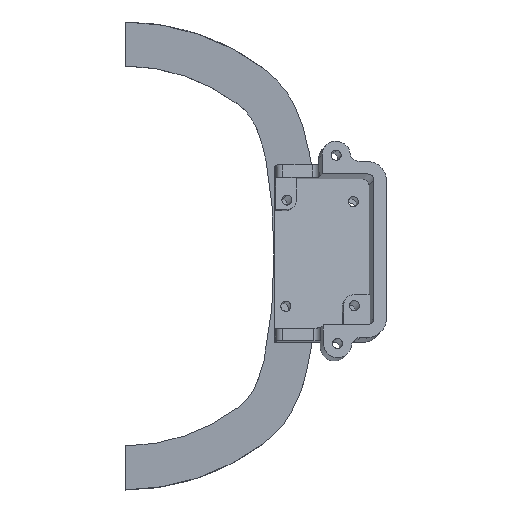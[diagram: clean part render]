
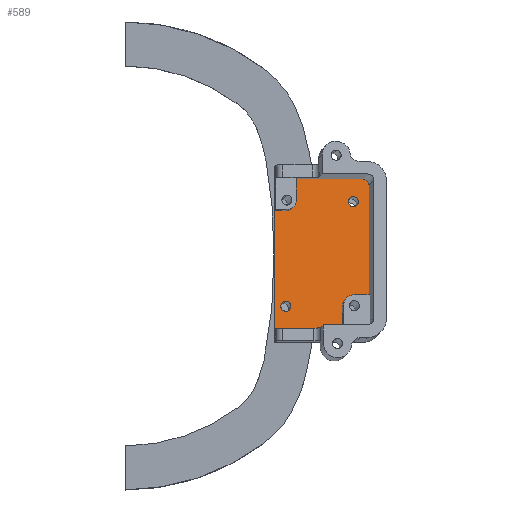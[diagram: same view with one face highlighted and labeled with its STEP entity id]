
A CAD part, top view. The second image highlights one B-rep face of the part: STEP entity #589.
In plain terms, the highlighted planar face has unit normal (0.087, 0.087, 0.992).
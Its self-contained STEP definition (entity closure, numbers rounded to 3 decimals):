
#18 = PLANE ( 'NONE',  #1616 ) ;
#20 = DIRECTION ( 'NONE',  ( 0., -0.996, 0.087 ) ) ;
#110 = ORIENTED_EDGE ( 'NONE', *, *, #1075, .T. ) ;
#144 = VERTEX_POINT ( 'NONE', #3727 ) ;
#319 = EDGE_CURVE ( 'NONE', #476, #3424, #2714, .T. ) ;
#331 = VERTEX_POINT ( 'NONE', #394 ) ;
#394 = CARTESIAN_POINT ( 'NONE',  ( 24., 6.988, 6.101 ) ) ;
#401 = AXIS2_PLACEMENT_3D ( 'NONE', #2703, #4307, #612 ) ;
#423 = LINE ( 'NONE', #4798, #1069 ) ;
#435 = CARTESIAN_POINT ( 'NONE',  ( 25.758, -9.064, 7.351 ) ) ;
#450 = CARTESIAN_POINT ( 'NONE',  ( 25.758, 8.469, 5.817 ) ) ;
#454 = LINE ( 'NONE', #3302, #4780 ) ;
#476 = VERTEX_POINT ( 'NONE', #1449 ) ;
#504 = CARTESIAN_POINT ( 'NONE',  ( 34.704, 0.759, 5.709 ) ) ;
#508 = EDGE_LOOP ( 'NONE', ( #1538, #1007 ) ) ;
#558 = ORIENTED_EDGE ( 'NONE', *, *, #4343, .T. ) ;
#589 = ADVANCED_FACE ( 'NONE', ( #1188, #3158, #3103 ), #18, .T. ) ;
#612 = DIRECTION ( 'NONE',  ( 0.996, 0., -0.087 ) ) ;
#614 = ORIENTED_EDGE ( 'NONE', *, *, #2494, .F. ) ;
#619 = ORIENTED_EDGE ( 'NONE', *, *, #2643, .T. ) ;
#653 = LINE ( 'NONE', #3513, #4210 ) ;
#775 = VERTEX_POINT ( 'NONE', #3046 ) ;
#783 = DIRECTION ( 'NONE',  ( 0.087, 0.087, 0.992 ) ) ;
#900 = AXIS2_PLACEMENT_3D ( 'NONE', #3019, #4622, #995 ) ;
#935 = VERTEX_POINT ( 'NONE', #4697 ) ;
#995 = DIRECTION ( 'NONE',  ( 0., -0.996, 0.087 ) ) ;
#1007 = ORIENTED_EDGE ( 'NONE', *, *, #3442, .F. ) ;
#1069 = VECTOR ( 'NONE', #4006, 1000. ) ;
#1075 = EDGE_CURVE ( 'NONE', #1303, #1386, #454, .T. ) ;
#1150 = CARTESIAN_POINT ( 'NONE',  ( 38.004, 12.008, 4.436 ) ) ;
#1188 = FACE_BOUND ( 'NONE', #508, .T. ) ;
#1280 = EDGE_CURVE ( 'NONE', #775, #4424, #1463, .T. ) ;
#1303 = VERTEX_POINT ( 'NONE', #1150 ) ;
#1341 = EDGE_CURVE ( 'NONE', #331, #3782, #423, .T. ) ;
#1386 = VERTEX_POINT ( 'NONE', #4486 ) ;
#1430 = EDGE_CURVE ( 'NONE', #144, #3210, #3473, .T. ) ;
#1449 = CARTESIAN_POINT ( 'NONE',  ( 36.517, 9.184, 4.814 ) ) ;
#1463 = LINE ( 'NONE', #2271, #4945 ) ;
#1537 = CARTESIAN_POINT ( 'NONE',  ( 36.517, 8.387, 4.883 ) ) ;
#1538 = ORIENTED_EDGE ( 'NONE', *, *, #5102, .F. ) ;
#1541 = DIRECTION ( 'NONE',  ( 0., 0.996, -0.087 ) ) ;
#1557 = ORIENTED_EDGE ( 'NONE', *, *, #3042, .F. ) ;
#1575 = CIRCLE ( 'NONE', #900, 0.8 ) ;
#1600 = EDGE_LOOP ( 'NONE', ( #619, #5082, #110, #2838, #3684, #558, #2540, #3426, #1977, #614, #2391 ) ) ;
#1616 = AXIS2_PLACEMENT_3D ( 'NONE', #4015, #4730, #4705 ) ;
#1737 = DIRECTION ( 'NONE',  ( 0.008, -0.996, 0.086 ) ) ;
#1763 = DIRECTION ( 'NONE',  ( 0.996, 0., -0.087 ) ) ;
#1889 = CARTESIAN_POINT ( 'NONE',  ( 36.517, -8.349, 6.348 ) ) ;
#1977 = ORIENTED_EDGE ( 'NONE', *, *, #4554, .F. ) ;
#1996 = LINE ( 'NONE', #5176, #3432 ) ;
#2060 = DIRECTION ( 'NONE',  ( 0.087, 0.087, 0.992 ) ) ;
#2061 = CARTESIAN_POINT ( 'NONE',  ( 36.517, -6.606, 6.195 ) ) ;
#2116 = CARTESIAN_POINT ( 'NONE',  ( 23.985, -12.008, 7.764 ) ) ;
#2252 = AXIS2_PLACEMENT_3D ( 'NONE', #1889, #3452, #5130 ) ;
#2271 = CARTESIAN_POINT ( 'NONE',  ( 0.759, -6.334, 9.3 ) ) ;
#2279 = CARTESIAN_POINT ( 'NONE',  ( 24., -12.008, 7.763 ) ) ;
#2326 = DIRECTION ( 'NONE',  ( -0.996, 0.008, 0.086 ) ) ;
#2391 = ORIENTED_EDGE ( 'NONE', *, *, #1280, .F. ) ;
#2415 = DIRECTION ( 'NONE',  ( 0., -0.996, 0.087 ) ) ;
#2464 = AXIS2_PLACEMENT_3D ( 'NONE', #450, #2060, #4873 ) ;
#2494 = EDGE_CURVE ( 'NONE', #4424, #3615, #3014, .T. ) ;
#2540 = ORIENTED_EDGE ( 'NONE', *, *, #1341, .T. ) ;
#2643 = EDGE_CURVE ( 'NONE', #775, #5044, #1996, .T. ) ;
#2680 = CIRCLE ( 'NONE', #401, 1. ) ;
#2703 = CARTESIAN_POINT ( 'NONE',  ( 38.011, 11.011, 4.523 ) ) ;
#2714 = CIRCLE ( 'NONE', #2972, 0.8 ) ;
#2761 = DIRECTION ( 'NONE',  ( 0.087, 0.087, 0.992 ) ) ;
#2838 = ORIENTED_EDGE ( 'NONE', *, *, #4637, .F. ) ;
#2903 = CARTESIAN_POINT ( 'NONE',  ( 36.517, 8.387, 4.883 ) ) ;
#2972 = AXIS2_PLACEMENT_3D ( 'NONE', #2903, #783, #3341 ) ;
#2983 = VERTEX_POINT ( 'NONE', #435 ) ;
#3014 = CIRCLE ( 'NONE', #2252, 1.75 ) ;
#3019 = CARTESIAN_POINT ( 'NONE',  ( 25.758, -8.267, 7.282 ) ) ;
#3042 = EDGE_CURVE ( 'NONE', #3424, #476, #4693, .T. ) ;
#3044 = CARTESIAN_POINT ( 'NONE',  ( 36.517, 7.59, 4.953 ) ) ;
#3046 = CARTESIAN_POINT ( 'NONE',  ( 39.008, -6.625, 5.979 ) ) ;
#3103 = FACE_OUTER_BOUND ( 'NONE', #1600, .T. ) ;
#3115 = CARTESIAN_POINT ( 'NONE',  ( 27.252, 0.558, 6.379 ) ) ;
#3134 = DIRECTION ( 'NONE',  ( 0.087, 0.087, 0.992 ) ) ;
#3158 = FACE_BOUND ( 'NONE', #4319, .T. ) ;
#3210 = VERTEX_POINT ( 'NONE', #3762 ) ;
#3235 = CARTESIAN_POINT ( 'NONE',  ( 25.758, -8.267, 7.282 ) ) ;
#3281 = ORIENTED_EDGE ( 'NONE', *, *, #319, .F. ) ;
#3302 = CARTESIAN_POINT ( 'NONE',  ( 41.015, 12.008, 4.173 ) ) ;
#3341 = DIRECTION ( 'NONE',  ( 0., -0.996, 0.087 ) ) ;
#3344 = EDGE_CURVE ( 'NONE', #5044, #1303, #2680, .T. ) ;
#3401 = CARTESIAN_POINT ( 'NONE',  ( 39.008, 11.004, 4.436 ) ) ;
#3424 = VERTEX_POINT ( 'NONE', #3044 ) ;
#3426 = ORIENTED_EDGE ( 'NONE', *, *, #4611, .T. ) ;
#3429 = LINE ( 'NONE', #3115, #4288 ) ;
#3432 = VECTOR ( 'NONE', #1541, 1000. ) ;
#3442 = EDGE_CURVE ( 'NONE', #4139, #2983, #1575, .T. ) ;
#3452 = DIRECTION ( 'NONE',  ( 0.087, 0.087, 0.992 ) ) ;
#3473 = CIRCLE ( 'NONE', #2464, 1.5 ) ;
#3486 = DIRECTION ( 'NONE',  ( -0.996, 0.008, 0.086 ) ) ;
#3513 = CARTESIAN_POINT ( 'NONE',  ( 0.759, 7.164, 8.119 ) ) ;
#3615 = VERTEX_POINT ( 'NONE', #4791 ) ;
#3625 = AXIS2_PLACEMENT_3D ( 'NONE', #3235, #3134, #20 ) ;
#3684 = ORIENTED_EDGE ( 'NONE', *, *, #1430, .F. ) ;
#3727 = CARTESIAN_POINT ( 'NONE',  ( 25.758, 6.974, 5.948 ) ) ;
#3757 = CARTESIAN_POINT ( 'NONE',  ( 25.758, -7.47, 7.212 ) ) ;
#3762 = CARTESIAN_POINT ( 'NONE',  ( 27.252, 8.457, 5.688 ) ) ;
#3782 = VERTEX_POINT ( 'NONE', #2279 ) ;
#4006 = DIRECTION ( 'NONE',  ( 0., -0.996, 0.087 ) ) ;
#4015 = CARTESIAN_POINT ( 'NONE',  ( 41., 31.032, 2.51 ) ) ;
#4038 = CIRCLE ( 'NONE', #3625, 0.8 ) ;
#4111 = LINE ( 'NONE', #2116, #4875 ) ;
#4139 = VERTEX_POINT ( 'NONE', #3757 ) ;
#4210 = VECTOR ( 'NONE', #2326, 1000. ) ;
#4288 = VECTOR ( 'NONE', #5135, 1000. ) ;
#4307 = DIRECTION ( 'NONE',  ( 0.087, 0.087, 0.992 ) ) ;
#4319 = EDGE_LOOP ( 'NONE', ( #1557, #3281 ) ) ;
#4343 = EDGE_CURVE ( 'NONE', #144, #331, #653, .T. ) ;
#4374 = VECTOR ( 'NONE', #1737, 1000. ) ;
#4424 = VERTEX_POINT ( 'NONE', #2061 ) ;
#4436 = DIRECTION ( 'NONE',  ( -0.996, 0., 0.087 ) ) ;
#4486 = CARTESIAN_POINT ( 'NONE',  ( 27.252, 12.008, 5.377 ) ) ;
#4488 = LINE ( 'NONE', #504, #4374 ) ;
#4554 = EDGE_CURVE ( 'NONE', #3615, #935, #4488, .T. ) ;
#4611 = EDGE_CURVE ( 'NONE', #3782, #935, #4111, .T. ) ;
#4622 = DIRECTION ( 'NONE',  ( 0.087, 0.087, 0.992 ) ) ;
#4637 = EDGE_CURVE ( 'NONE', #3210, #1386, #3429, .T. ) ;
#4693 = CIRCLE ( 'NONE', #4855, 0.8 ) ;
#4697 = CARTESIAN_POINT ( 'NONE',  ( 34.801, -12.008, 6.818 ) ) ;
#4705 = DIRECTION ( 'NONE',  ( 0.996, 0., -0.087 ) ) ;
#4730 = DIRECTION ( 'NONE',  ( 0.087, 0.087, 0.992 ) ) ;
#4780 = VECTOR ( 'NONE', #4436, 1000. ) ;
#4791 = CARTESIAN_POINT ( 'NONE',  ( 34.774, -8.349, 6.5 ) ) ;
#4798 = CARTESIAN_POINT ( 'NONE',  ( 24., 31.032, 3.997 ) ) ;
#4855 = AXIS2_PLACEMENT_3D ( 'NONE', #1537, #2761, #2415 ) ;
#4873 = DIRECTION ( 'NONE',  ( 0., -0.996, 0.087 ) ) ;
#4875 = VECTOR ( 'NONE', #1763, 1000. ) ;
#4945 = VECTOR ( 'NONE', #3486, 1000. ) ;
#5044 = VERTEX_POINT ( 'NONE', #3401 ) ;
#5082 = ORIENTED_EDGE ( 'NONE', *, *, #3344, .T. ) ;
#5102 = EDGE_CURVE ( 'NONE', #2983, #4139, #4038, .T. ) ;
#5130 = DIRECTION ( 'NONE',  ( 0., -0.996, 0.087 ) ) ;
#5135 = DIRECTION ( 'NONE',  ( 0., 0.996, -0.087 ) ) ;
#5176 = CARTESIAN_POINT ( 'NONE',  ( 39.008, -13.985, 6.623 ) ) ;
